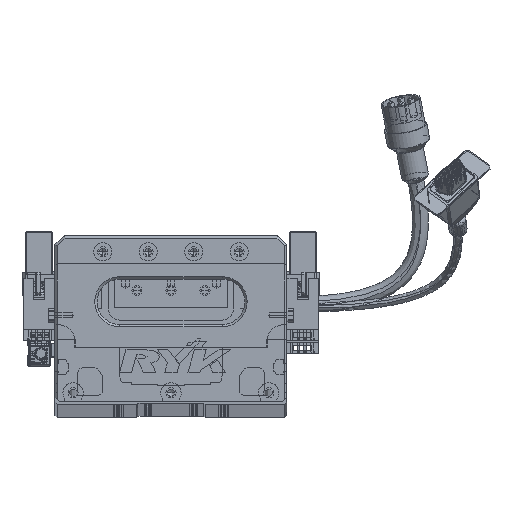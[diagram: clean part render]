
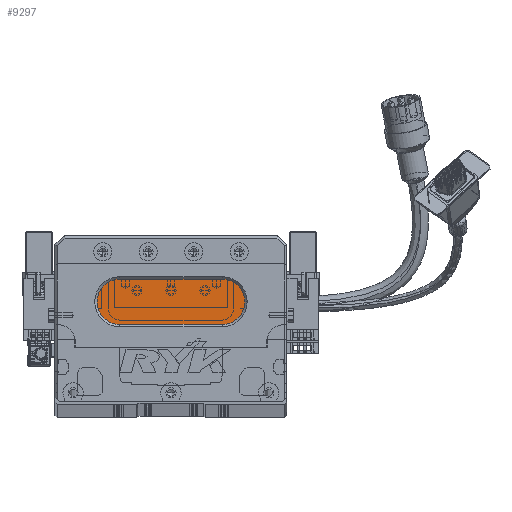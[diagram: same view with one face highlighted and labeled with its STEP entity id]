
A CAD part, top view. The second image highlights one B-rep face of the part: STEP entity #9297.
In plain terms, the highlighted planar face has unit normal (0, 0, 1) as drawn and (0, 0, -1) by its records, which use the part's own axes.
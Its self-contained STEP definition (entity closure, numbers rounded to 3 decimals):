
#2388 = ORIENTED_EDGE ( 'NONE', *, *, #33204, .T. ) ;
#5212 = CARTESIAN_POINT ( 'NONE',  ( 73.5, 54., 13. ) ) ;
#6849 = CARTESIAN_POINT ( 'NONE',  ( 73.5, 44., 13. ) ) ;
#9297 = ADVANCED_FACE ( 'NONE', ( #77031 ), #16881, .T. ) ;
#14057 = ORIENTED_EDGE ( 'NONE', *, *, #89481, .T. ) ;
#14080 = CARTESIAN_POINT ( 'NONE',  ( 28.5, 54., 13. ) ) ;
#14909 = LINE ( 'NONE', #50147, #22835 ) ;
#15076 = CARTESIAN_POINT ( 'NONE',  ( 28.5, 44., 13. ) ) ;
#16774 = AXIS2_PLACEMENT_3D ( 'NONE', #67938, #89393, #60009 ) ;
#16881 = PLANE ( 'NONE',  #16774 ) ;
#18994 = EDGE_CURVE ( 'NONE', #37088, #81749, #14909, .T. ) ;
#22529 = LINE ( 'NONE', #56264, #30523 ) ;
#22835 = VECTOR ( 'NONE', #93241, 1000. ) ;
#23107 = AXIS2_PLACEMENT_3D ( 'NONE', #15076, #88194, #37084 ) ;
#23417 = AXIS2_PLACEMENT_3D ( 'NONE', #6849, #51555, #58590 ) ;
#26566 = CARTESIAN_POINT ( 'NONE',  ( 18.5, 44., 13. ) ) ;
#30523 = VECTOR ( 'NONE', #63877, 1000. ) ;
#33096 = DIRECTION ( 'NONE',  ( -1., 0., 0. ) ) ;
#33204 = EDGE_CURVE ( 'NONE', #81749, #67285, #63726, .T. ) ;
#35558 = CIRCLE ( 'NONE', #23417, 10. ) ;
#37084 = DIRECTION ( 'NONE',  ( -1., 0., 0. ) ) ;
#37088 = VERTEX_POINT ( 'NONE', #52784 ) ;
#39841 = ORIENTED_EDGE ( 'NONE', *, *, #77686, .T. ) ;
#41467 = VERTEX_POINT ( 'NONE', #14080 ) ;
#47732 = EDGE_CURVE ( 'NONE', #65914, #37088, #35558, .T. ) ;
#50147 = CARTESIAN_POINT ( 'NONE',  ( 73.5, 34., 13. ) ) ;
#51555 = DIRECTION ( 'NONE',  ( 0., 0., -1. ) ) ;
#52784 = CARTESIAN_POINT ( 'NONE',  ( 73.5, 34., 13. ) ) ;
#56264 = CARTESIAN_POINT ( 'NONE',  ( 73.5, 54., 13. ) ) ;
#58590 = DIRECTION ( 'NONE',  ( -1., 0., 0. ) ) ;
#59563 = ORIENTED_EDGE ( 'NONE', *, *, #18994, .T. ) ;
#60009 = DIRECTION ( 'NONE',  ( -1., 0., 0. ) ) ;
#63239 = CIRCLE ( 'NONE', #23107, 10. ) ;
#63726 = CIRCLE ( 'NONE', #78122, 10. ) ;
#63877 = DIRECTION ( 'NONE',  ( 1., 0., 0. ) ) ;
#65914 = VERTEX_POINT ( 'NONE', #5212 ) ;
#67285 = VERTEX_POINT ( 'NONE', #26566 ) ;
#67938 = CARTESIAN_POINT ( 'NONE',  ( 73.5, 44., 13. ) ) ;
#74418 = CARTESIAN_POINT ( 'NONE',  ( 28.5, 34., 13. ) ) ;
#76850 = DIRECTION ( 'NONE',  ( 0., 0., -1. ) ) ;
#77031 = FACE_OUTER_BOUND ( 'NONE', #89112, .T. ) ;
#77158 = CARTESIAN_POINT ( 'NONE',  ( 28.5, 44., 13. ) ) ;
#77686 = EDGE_CURVE ( 'NONE', #67285, #41467, #63239, .T. ) ;
#78122 = AXIS2_PLACEMENT_3D ( 'NONE', #77158, #76850, #33096 ) ;
#81749 = VERTEX_POINT ( 'NONE', #74418 ) ;
#88021 = ORIENTED_EDGE ( 'NONE', *, *, #47732, .T. ) ;
#88194 = DIRECTION ( 'NONE',  ( 0., 0., -1. ) ) ;
#89112 = EDGE_LOOP ( 'NONE', ( #88021, #59563, #2388, #39841, #14057 ) ) ;
#89393 = DIRECTION ( 'NONE',  ( 0., 0., -1. ) ) ;
#89481 = EDGE_CURVE ( 'NONE', #41467, #65914, #22529, .T. ) ;
#93241 = DIRECTION ( 'NONE',  ( -1., 0., 0. ) ) ;
